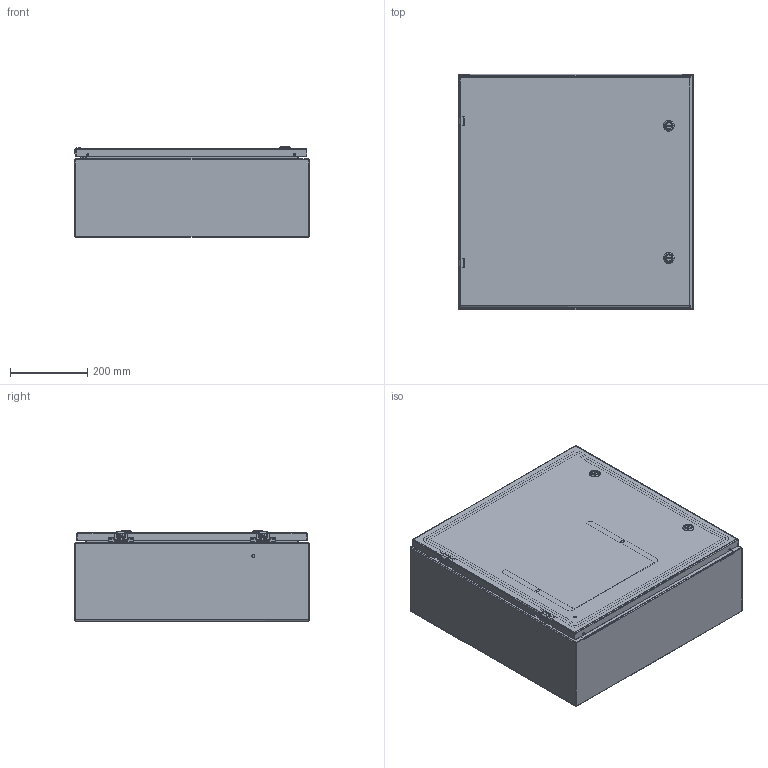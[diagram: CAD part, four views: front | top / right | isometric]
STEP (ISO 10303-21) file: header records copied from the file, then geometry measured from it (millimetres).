
FILE_DESCRIPTION((''),'2;1');
FILE_NAME('MODEL-305_ASM','2024-03-05T13:48:30',('JoelB'),('SAGINAW CONTROL & ENGINEERING'),'CREO PARAMETRIC BY PTC INC, 2021284','CREO PARAMETRIC BY PTC INC, 2021284','');
FILE_SCHEMA(('AUTOMOTIVE_DESIGN { 1 0 10303 214 1 1 1 1 }'));
Length unit declared in the file: inch
Products named in the file (28): MODEL-305-BDY; MODEL-305-TP; MODEL-305-BTM; MODEL-305-DR; 100837; 100882; 111267; 100794_SHAFT; 100794_INSERT; 100794_CAM; 100794_NUT; 100794_SCREW; 100794_ASM; MODEL-305-DOOR-GASKET; 126391; 126391_ASM; 126393; 102483; 101226; 101376; 102140; MODEL-305-DOOR-ASSY_ASM; 101653; 122191; SUBPANEL; 100904; SUBPANEL-SUBASSEMBLY_ASM; MODEL-305_ASM
Assembly tree (48 placements, depth 4):
  MODEL-305_ASM
    MODEL-305-BDY
    MODEL-305-TP
    MODEL-305-BTM
    MODEL-305-DOOR-ASSY_ASM
      MODEL-305-DR
      100837  x3
      100882  x2
      111267
      100794_ASM  x2
        100794_SHAFT
        100794_INSERT
        100794_CAM
        100794_NUT
        100794_SCREW
      MODEL-305-DOOR-GASKET
      126391_ASM  x2
        126391
      126393  x2
      102483  x6
      101226  x2
      101376  x2
      102140  x2
    100837
    101653  x4
    122191
    SUBPANEL-SUBASSEMBLY_ASM
      SUBPANEL
      100904  x4
Bounding box: 609.6 x 609.6 x 234.33 mm (x, y, z)
Volume: 4086497.7 mm3; surface area: 3726231.5 mm2
Topology: 49 solids, 49 shells, 3049 faces, 7746 edges, 4864 vertices
Faces by surface type: plane 1378, cylinder 849, bspline 448, torus 214, cone 104, sphere 56
Entity records: 85240 total; most frequent: CARTESIAN_POINT 24745, ORIENTED_EDGE 8754, DIRECTION 8234, PRESENTATION_STYLE_ASSIGNMENT 4574, EDGE_CURVE 4377, STYLED_ITEM 4299, CURVE_STYLE 4215, AXIS2_PLACEMENT_3D 3000
